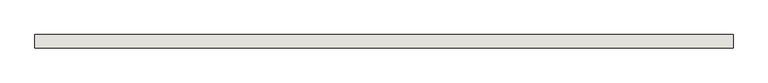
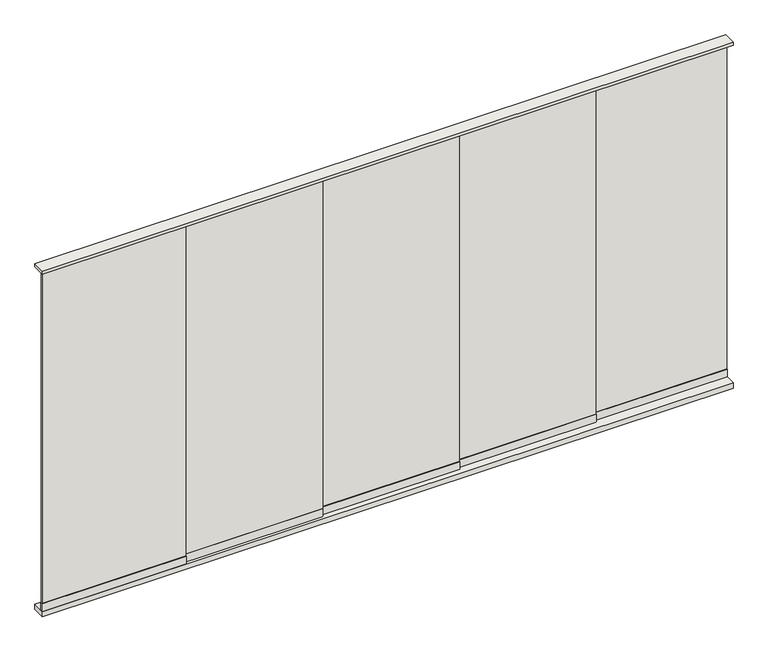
"""IFC4 building model written with IfcOpenShell, lengths in millimetres: wall geometry, Renson_Algarve_Glass_Sliding_Panel : Renson_Algarve_Glass_Sliding_Panel."""

from ifc_helpers import new_model, si_unit, frame, origin, origin_with_axes, place, context, project, spatial, polyline, outline, extrude, source, transform, mapped, element, save


def wall_dc490932(model_context):
    return source(origin(), model_context, "Body", "SweptSolid", [
        extrude(outline(polyline([(750.0, 0.0), (750.0, -80.0), (-3500.0, -80.0), (-3500.0, 0.0), (750.0, 0.0)])), frame((0.0, 0.0, 2230.0), z_axis=(0.0, 0.0, 1.0), x_axis=(1.0, 0.0, 0.0)), (0.0, 0.0, 1.0), 20.0),
        extrude(outline(polyline([(-3500.0, -77.0), (-3500.0, -67.0), (-2615.0, -67.0), (-2615.0, -77.0), (-3500.0, -77.0)])), frame((0.0, 0.0, 86.0), z_axis=(0.0, 0.0, 1.0), x_axis=(1.0, 0.0, 0.0)), (0.0, 0.0, 1.0), 2144.0),
        extrude(outline(polyline([(-2615.0, -64.0), (-2615.0, -80.0), (-3500.0, -80.0), (-3500.0, -64.0), (-2615.0, -64.0)])), frame((0.0, 0.0, 35.0), z_axis=(0.0, 0.0, 1.0), x_axis=(1.0, 0.0, 0.0)), (0.0, 0.0, 1.0), 51.0),
        extrude(outline(polyline([(750.0, 0.0), (750.0, -80.0), (-3500.0, -80.0), (-3500.0, 0.0), (750.0, 0.0)])), origin_with_axes(), (0.0, 0.0, 1.0), 35.0),
        extrude(outline(polyline([(750.0, -3.0), (750.0, -13.0), (-100.0, -13.0), (-100.0, -3.0), (750.0, -3.0)])), frame((0.0, 0.0, 86.0), z_axis=(0.0, 0.0, 1.0), x_axis=(1.0, 0.0, 0.0)), (0.0, 0.0, 1.0), 2144.0),
        extrude(outline(polyline([(-65.0, -19.0), (-65.0, -29.0), (-950.0, -29.0), (-950.0, -19.0), (-65.0, -19.0)])), frame((0.0, 0.0, 86.0), z_axis=(0.0, 0.0, 1.0), x_axis=(1.0, 0.0, 0.0)), (0.0, 0.0, 1.0), 2144.0),
        extrude(outline(polyline([(-1765.0, -51.0), (-1765.0, -61.0), (-2650.0, -61.0), (-2650.0, -51.0), (-1765.0, -51.0)])), frame((0.0, 0.0, 86.0), z_axis=(0.0, 0.0, 1.0), x_axis=(1.0, 0.0, 0.0)), (0.0, 0.0, 1.0), 2144.0),
        extrude(outline(polyline([(-1765.0, -48.0), (-1765.0, -64.0), (-2650.0, -64.0), (-2650.0, -48.0), (-1765.0, -48.0)])), frame((0.0, 0.0, 35.0), z_axis=(0.0, 0.0, 1.0), x_axis=(1.0, 0.0, 0.0)), (0.0, 0.0, 1.0), 51.0),
        extrude(outline(polyline([(-915.0, -35.0), (-915.0, -45.0), (-1800.0, -45.0), (-1800.0, -35.0), (-915.0, -35.0)])), frame((0.0, 0.0, 86.0), z_axis=(0.0, 0.0, 1.0), x_axis=(1.0, 0.0, 0.0)), (0.0, 0.0, 1.0), 2144.0),
        extrude(outline(polyline([(750.0, 0.0), (750.0, -16.0), (-100.0, -16.0), (-100.0, 0.0), (750.0, 0.0)])), frame((0.0, 0.0, 35.0), z_axis=(0.0, 0.0, 1.0), x_axis=(1.0, 0.0, 0.0)), (0.0, 0.0, 1.0), 51.0),
        extrude(outline(polyline([(-65.0, -16.0), (-65.0, -32.0), (-950.0, -32.0), (-950.0, -16.0), (-65.0, -16.0)])), frame((0.0, 0.0, 35.0), z_axis=(0.0, 0.0, 1.0), x_axis=(1.0, 0.0, 0.0)), (0.0, 0.0, 1.0), 51.0),
        extrude(outline(polyline([(-915.0, -32.0), (-915.0, -48.0), (-1800.0, -48.0), (-1800.0, -32.0), (-915.0, -32.0)])), frame((0.0, 0.0, 35.0), z_axis=(0.0, 0.0, 1.0), x_axis=(1.0, 0.0, 0.0)), (0.0, 0.0, 1.0), 51.0),
    ])


if __name__ == "__main__":
    model = new_model("IFC4")
    model_context = context("Model", 3, world=origin())
    ifc_project = project(units=[si_unit("LENGTHUNIT", "METRE", prefix="MILLI")], contexts=[model_context])
    site = spatial("IfcSite", under=ifc_project)
    building = spatial("IfcBuilding", under=site)
    placement = place(None, origin())
    wall_shape = wall_dc490932(model_context)
    element("IfcWall", 1, ObjectType="Renson_Algarve_Glass_Sliding_Panel : Renson_Algarve_Glass_Sliding_Panel", at=placement, inside=building, context=model_context, shape_type="MappedRepresentation", body=[
        mapped(wall_shape, transform((0.0, 0.0, 0.0), x_axis=(1.0, 0.0, 0.0), y_axis=(0.0, 1.0, 0.0), z_axis=(0.0, 0.0, 1.0))),
    ])
    save(model, "model.ifc")
